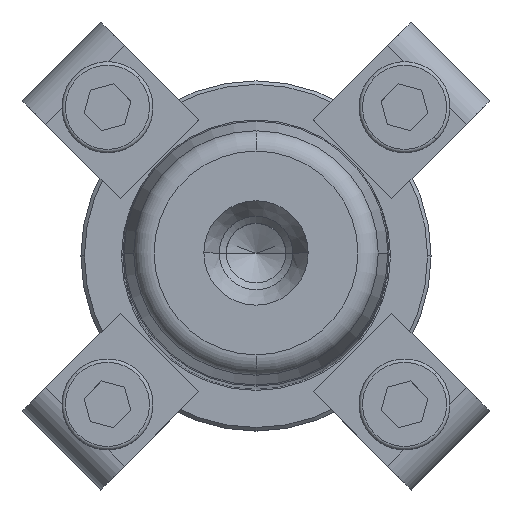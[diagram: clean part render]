
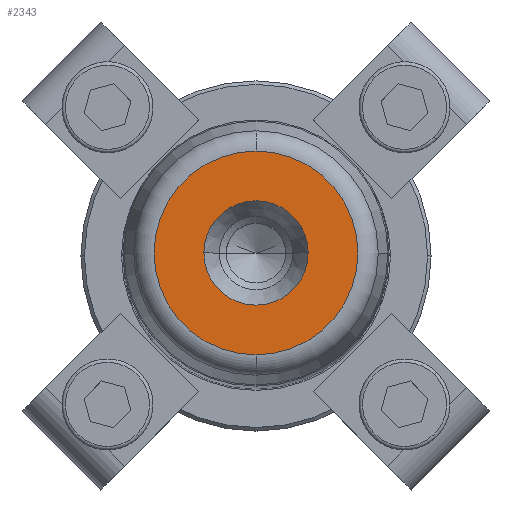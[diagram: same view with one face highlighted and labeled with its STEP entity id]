
A CAD part, top view. The second image highlights one B-rep face of the part: STEP entity #2343.
In plain terms, the highlighted planar face has unit normal (0, 0, 1).
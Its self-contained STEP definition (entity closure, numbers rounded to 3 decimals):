
#431=CARTESIAN_POINT('',(7.45,0.,250.0));
#432=VERTEX_POINT('',#431);
#439=CARTESIAN_POINT('',(-7.45,0.,250.0));
#440=VERTEX_POINT('',#439);
#441=CARTESIAN_POINT('',(0.0,0.,250.0));
#442=DIRECTION('',(0.0,0.0,1.0));
#443=DIRECTION('',(1.0,0.0,0.0));
#444=AXIS2_PLACEMENT_3D('',#441,#442,#443);
#445=CIRCLE('',#444,7.45);
#446=EDGE_CURVE('',#432,#440,#445,.T.);
#463=CARTESIAN_POINT('',(0.0,-14.554,250.));
#464=VERTEX_POINT('',#463);
#474=CARTESIAN_POINT('',(0.,14.554,250.));
#475=VERTEX_POINT('',#474);
#476=CARTESIAN_POINT('',(0.0,0.,250.));
#477=DIRECTION('',(0.0,0.0,1.0));
#478=DIRECTION('',(1.0,0.0,0.0));
#479=AXIS2_PLACEMENT_3D('',#476,#477,#478);
#480=CIRCLE('',#479,14.554);
#481=EDGE_CURVE('',#475,#464,#480,.T.);
#2304=CARTESIAN_POINT('',(14.554,0.,250.));
#2305=VERTEX_POINT('',#2304);
#2306=CARTESIAN_POINT('',(0.0,0.,250.));
#2307=DIRECTION('',(0.0,0.0,1.0));
#2308=DIRECTION('',(1.0,0.0,0.0));
#2309=AXIS2_PLACEMENT_3D('',#2306,#2307,#2308);
#2310=CIRCLE('',#2309,14.554);
#2311=EDGE_CURVE('',#2305,#475,#2310,.T.);
#2313=CARTESIAN_POINT('',(0.0,0.,250.));
#2314=DIRECTION('',(0.0,0.0,1.0));
#2315=DIRECTION('',(1.0,0.0,0.0));
#2316=AXIS2_PLACEMENT_3D('',#2313,#2314,#2315);
#2317=CIRCLE('',#2316,14.554);
#2318=EDGE_CURVE('',#464,#2305,#2317,.T.);
#2323=CARTESIAN_POINT('',(11.002,0.,250.));
#2324=DIRECTION('',(0.0,0.0,1.0));
#2325=DIRECTION('',(0.0,-1.0,0.0));
#2326=AXIS2_PLACEMENT_3D('',#2323,#2324,#2325);
#2327=PLANE('',#2326);
#2328=ORIENTED_EDGE('',*,*,#2311,.T.);
#2329=ORIENTED_EDGE('',*,*,#481,.T.);
#2330=ORIENTED_EDGE('',*,*,#2318,.T.);
#2331=EDGE_LOOP('',(#2328,#2329,#2330));
#2332=FACE_OUTER_BOUND('',#2331,.T.);
#2333=ORIENTED_EDGE('',*,*,#446,.F.);
#2334=CARTESIAN_POINT('',(0.0,0.,250.0));
#2335=DIRECTION('',(0.0,0.0,1.0));
#2336=DIRECTION('',(1.0,0.0,0.0));
#2337=AXIS2_PLACEMENT_3D('',#2334,#2335,#2336);
#2338=CIRCLE('',#2337,7.45);
#2339=EDGE_CURVE('',#440,#432,#2338,.T.);
#2340=ORIENTED_EDGE('',*,*,#2339,.F.);
#2341=EDGE_LOOP('',(#2333,#2340));
#2342=FACE_BOUND('',#2341,.T.);
#2343=ADVANCED_FACE('',(#2332,#2342),#2327,.T.);
